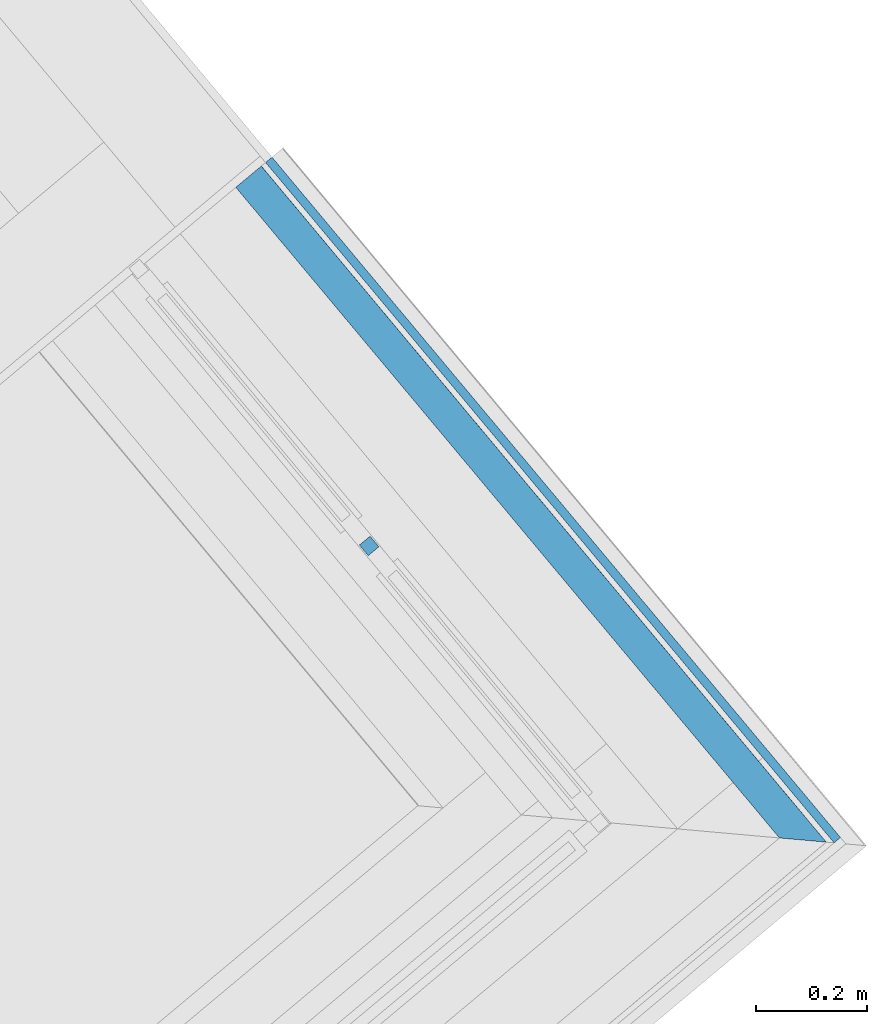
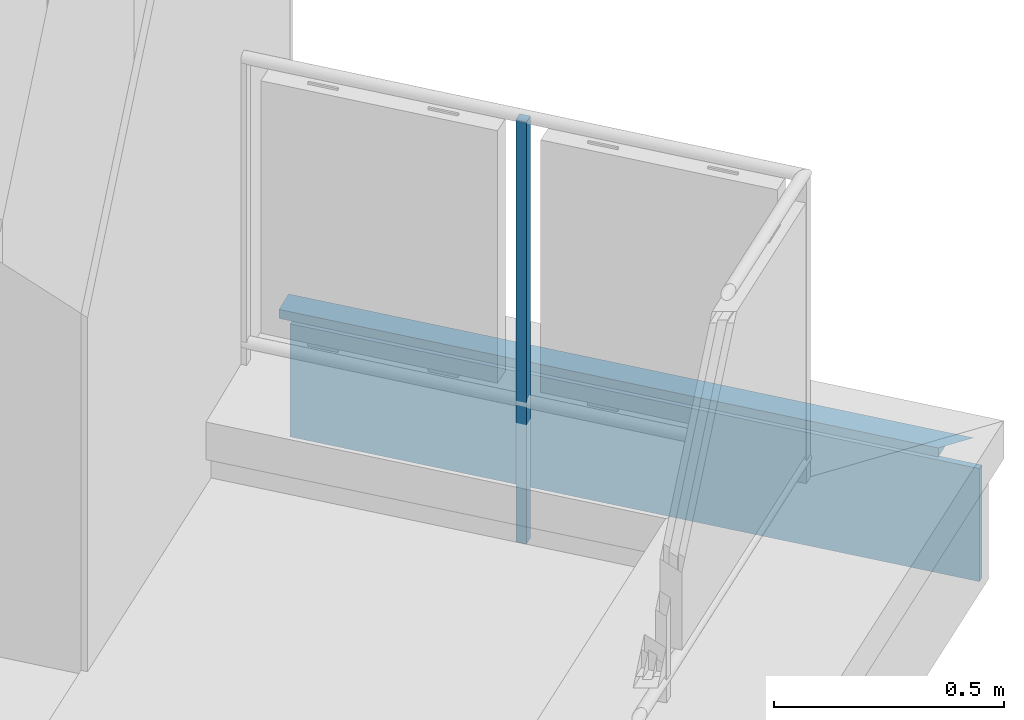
# One storey, part 35 of 47: 3 building element parts, 2 elements without a shape of their own.
"""IFC4 building model written with IfcOpenShell, lengths in metres."""

from ifc_helpers import new_model, entity, si_unit, converted_unit, derived_unit, direction, frame, origin_with_axes, place, context, subcontext, project, spatial, polygons, material, type_object, element, aggregate, save


model = new_model("IFC4")

# Units and contexts
model_context = context("Model", 3, precision=1e-05, world=origin_with_axes(), true_north=direction((0.0, 1.0)))
body_context = subcontext(model_context, "Body", "Model", "MODEL_VIEW")
ifc_project = project(units=[si_unit("LENGTHUNIT", "METRE"), si_unit("AREAUNIT", "SQUARE_METRE"), si_unit("VOLUMEUNIT", "CUBIC_METRE"), converted_unit("PLANEANGLEUNIT", "DEGREE", entity("IfcPlaneAngleMeasure", 0.0174532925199), si_unit("PLANEANGLEUNIT", "RADIAN"), dimensions=[0, 0, 0, 0, 0, 0, 0]), converted_unit("TIMEUNIT", "Year", entity("IfcTimeMeasure", 31556926.0), si_unit("TIMEUNIT", "SECOND"), dimensions=[0, 0, 1, 0, 0, 0, 0]), si_unit("MASSUNIT", "GRAM", prefix="KILO"), si_unit("THERMODYNAMICTEMPERATUREUNIT", "DEGREE_CELSIUS"), si_unit("LUMINOUSINTENSITYUNIT", "LUMEN"), si_unit("ENERGYUNIT", "JOULE", prefix="MEGA"), derived_unit("THERMALCONDUCTANCEUNIT", [(si_unit("POWERUNIT", "WATT"), 1), (si_unit("LENGTHUNIT", "METRE"), -1), (si_unit("THERMODYNAMICTEMPERATUREUNIT", "KELVIN"), -1)]), derived_unit("SPECIFICHEATCAPACITYUNIT", [(si_unit("ENERGYUNIT", "JOULE"), 1), (si_unit("MASSUNIT", "GRAM", prefix="KILO"), -1), (si_unit("THERMODYNAMICTEMPERATUREUNIT", "KELVIN"), -1)]), derived_unit("MASSDENSITYUNIT", [(si_unit("MASSUNIT", "GRAM", prefix="KILO"), 1), (si_unit("VOLUMEUNIT", "CUBIC_METRE"), -1)])], contexts=[model_context])

# Site, building, storey
site_placement = place(None, frame((-0.00153261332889, -0.00661245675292, 0.0), z_axis=(0.0, 0.0, 1.0), x_axis=(1.0, 0.0, 0.0)))
site = spatial("IfcSite", under=ifc_project, at=site_placement, Name="Site", CompositionType="ELEMENT")
building_placement = place(site_placement, origin_with_axes())
building = spatial("IfcBuilding", under=site, at=building_placement, Name="Building", CompositionType="ELEMENT")
storey_placement = place(building_placement, frame((0.0, 0.0, 8.66), z_axis=(0.0, 0.0, 1.0), x_axis=(1.0, 0.0, 0.0)))
storey = spatial("IfcBuildingStorey", under=building, at=storey_placement, Name="DG2", CompositionType="ELEMENT", Elevation=8.66)

# Wall, building element parts
wall_type = type_object("IfcWallType", Name="Bauteil - Attika Terrasse 1.DG 574 x 410", PredefinedType="NOTDEFINED")
wall_placement = place(storey_placement, frame((13.0950046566, 20.3058232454, -0.2), z_axis=(0.0, 0.0, 1.0), x_axis=(-0.641209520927, 0.767365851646, 0.0)))
wall = element("IfcWall", 1, at=wall_placement, inside=storey, type_object=wall_type, Name="Wand-005", PredefinedType="NOTDEFINED")
ifc_material_1 = material(Name="Vollholz")
building_element_part_1_placement = place(wall_placement, origin_with_axes())
building_element_part_1 = element("IfcBuildingElementPart", 2, at=building_element_part_1_placement, material=ifc_material_1, Name="Vollholz", PredefinedType="NOTDEFINED", context=body_context, shape_type="Tessellation", body=[
    polygons([(1.39632238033, -0.130124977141, 0.560000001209), (-0.130040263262, -0.130124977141, 0.560000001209), (-0.130040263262, -0.130124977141, 0.567947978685), (-0.130040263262, -0.130124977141, 0.573880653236), (-0.130040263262, -0.130124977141, 0.575979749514), (-0.130040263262, -0.130124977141, 0.584015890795), (1.39632238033, -0.130124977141, 0.584015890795), (1.39632238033, -0.190124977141, 0.560000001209), (-0.130001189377, -0.190124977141, 0.560000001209), (-0.130001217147, -0.190082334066, 0.567947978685), (-0.130001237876, -0.190050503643, 0.573880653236), (-0.130001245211, -0.190039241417, 0.575979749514), (-0.130001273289, -0.189996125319, 0.584015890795), (-0.189861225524, -0.189984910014, 0.586106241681), (1.39632238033, -0.189984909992, 0.586106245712)], [[[1, 2, 3, 4, 5, 6, 7]], [[2, 1, 8, 9]], [[3, 2, 9, 10]], [[4, 3, 10, 11]], [[5, 4, 11, 12]], [[6, 5, 12, 13]], [[7, 6, 14, 15]], [[1, 7, 15, 8]], [[8, 15, 14, 13, 12, 11, 10, 9]], [[6, 13, 14]]], closed=True),
])
ifc_material_2 = material(Name="Zementputz")
building_element_part_2_placement = place(wall_placement, origin_with_axes())
building_element_part_2 = element("IfcBuildingElementPart", 3, at=building_element_part_2_placement, material=ifc_material_2, Name="Zementputz", PredefinedType="NOTDEFINED", context=body_context, shape_type="Tessellation", body=[
    polygons([(-0.199869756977, -0.199999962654, 0.499999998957), (-0.199859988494, -0.214999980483, 0.499999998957), (1.39632238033, -0.214999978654, 0.499999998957), (1.39632238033, -0.199999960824, 0.499999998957), (-0.199859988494, -0.2149999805, 0.498822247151), (-0.199869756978, -0.199999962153, 0.498822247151), (-0.199859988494, -0.2149999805, 0.49100648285), (-0.199859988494, -0.2149999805, 0.488695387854), (-0.199859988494, -0.2149999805, 0.335), (-0.199859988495, -0.214999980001, 0.2), (1.39632238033, -0.214999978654, 0.2), (1.39632238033, -0.199999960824, 0.2), (-0.199869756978, -0.199999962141, 0.2), (-0.199869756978, -0.199999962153, 0.335), (-0.199869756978, -0.199999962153, 0.488695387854), (-0.199869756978, -0.199999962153, 0.49100648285)], [[[1, 2, 3, 4]], [[5, 2, 1, 6]], [[2, 5, 7, 8, 9, 10, 11, 3]], [[3, 11, 12, 4]], [[6, 1, 4, 12, 13, 14, 15, 16]], [[5, 6, 16, 7]], [[7, 16, 15, 8]], [[8, 15, 14, 9]], [[9, 14, 13, 10]], [[10, 13, 12, 11]]], closed=True),
])
aggregate(wall, [building_element_part_1, building_element_part_2])

# Railing, building element part
railing_type = type_object("IfcRailingType", Name="Geländerart", PredefinedType="NOTDEFINED")
railing_placement = place(storey_placement, frame((8.09801261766, 17.9211539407, 0.38), z_axis=(0.0, 0.0, 1.0), x_axis=(1.0, 0.0, 0.0)))
railing = element("IfcRailing", 4, at=railing_placement, inside=storey, type_object=railing_type, Name="Geländer - 001", PredefinedType="NOTDEFINED")
ifc_material_3 = material(Name="Aluminium")
building_element_part_3_placement = place(railing_placement, origin_with_axes())
building_element_part_3 = element("IfcBuildingElementPart", 5, at=building_element_part_3_placement, material=ifc_material_3, Name="Aluminium", PredefinedType="NOTDEFINED", context=body_context, shape_type="Tessellation", body=[
    polygons([(4.44319679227, 2.91166159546, -0.3), (4.42398080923, 2.89566953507, -0.3), (4.42398080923, 2.89566953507, 0.82), (4.44319679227, 2.91166159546, 0.82), (4.45918885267, 2.89244561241, -0.3), (4.43997286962, 2.87645355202, -0.3), (4.43997286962, 2.87645355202, 0.82), (4.45918885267, 2.89244561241, 0.82)], [[[1, 2, 3, 4]], [[1, 5, 6, 2]], [[2, 6, 7, 3]], [[4, 3, 7, 8]], [[5, 1, 4, 8]], [[6, 5, 8, 7]]], closed=True),
])
aggregate(railing, [building_element_part_3])

save(model, "model.ifc")
